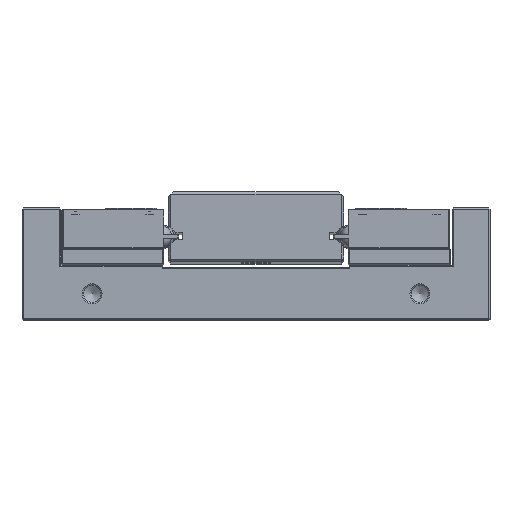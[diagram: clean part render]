
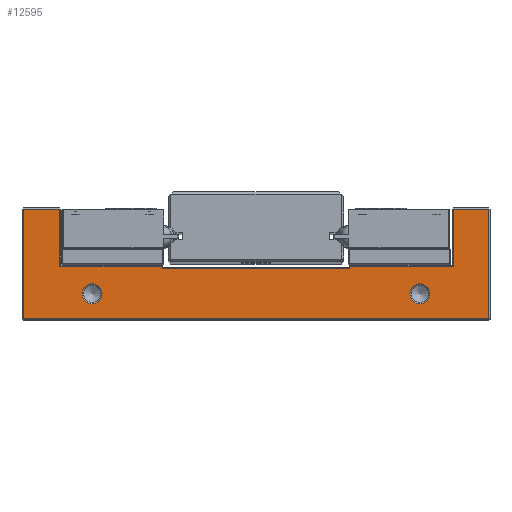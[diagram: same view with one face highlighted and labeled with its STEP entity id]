
A CAD part, top view. The second image highlights one B-rep face of the part: STEP entity #12595.
In plain terms, the highlighted planar face has unit normal (0, 0, 1).
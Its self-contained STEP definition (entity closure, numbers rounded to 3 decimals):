
#432=FACE_BOUND('',#2256,.T.);
#433=FACE_BOUND('',#2257,.T.);
#858=PLANE('',#13699);
#1475=FACE_OUTER_BOUND('',#2255,.T.);
#2255=EDGE_LOOP('',(#10391,#10392,#10393,#10394,#10395,#10396,#10397,#10398,
#10399,#10400,#10401,#10402));
#2256=EDGE_LOOP('',(#10403));
#2257=EDGE_LOOP('',(#10404));
#3259=LINE('',#21116,#4302);
#3297=LINE('',#21235,#4340);
#3298=LINE('',#21238,#4341);
#3300=LINE('',#21242,#4343);
#3301=LINE('',#21244,#4344);
#3302=LINE('',#21246,#4345);
#3303=LINE('',#21248,#4346);
#3304=LINE('',#21250,#4347);
#3305=LINE('',#21252,#4348);
#3306=LINE('',#21254,#4349);
#3307=LINE('',#21255,#4350);
#3308=LINE('',#21256,#4351);
#4302=VECTOR('',#16321,10.);
#4340=VECTOR('',#16451,10.);
#4341=VECTOR('',#16454,10.);
#4343=VECTOR('',#16458,10.);
#4344=VECTOR('',#16459,10.);
#4345=VECTOR('',#16460,10.);
#4346=VECTOR('',#16461,10.);
#4347=VECTOR('',#16462,10.);
#4348=VECTOR('',#16463,10.);
#4349=VECTOR('',#16464,10.);
#4350=VECTOR('',#16465,10.);
#4351=VECTOR('',#16466,10.);
#4894=CIRCLE('',#13700,3.824);
#4895=CIRCLE('',#13701,3.824);
#5837=VERTEX_POINT('',#21113);
#5838=VERTEX_POINT('',#21115);
#5872=VERTEX_POINT('',#21231);
#5873=VERTEX_POINT('',#21233);
#5874=VERTEX_POINT('',#21237);
#5875=VERTEX_POINT('',#21241);
#5876=VERTEX_POINT('',#21243);
#5877=VERTEX_POINT('',#21245);
#5878=VERTEX_POINT('',#21247);
#5879=VERTEX_POINT('',#21249);
#5880=VERTEX_POINT('',#21251);
#5881=VERTEX_POINT('',#21253);
#5882=VERTEX_POINT('',#21257);
#5883=VERTEX_POINT('',#21259);
#7383=EDGE_CURVE('',#5838,#5837,#3259,.T.);
#7443=EDGE_CURVE('',#5873,#5872,#3297,.T.);
#7444=EDGE_CURVE('',#5874,#5872,#3298,.T.);
#7446=EDGE_CURVE('',#5875,#5873,#3300,.T.);
#7447=EDGE_CURVE('',#5876,#5875,#3301,.T.);
#7448=EDGE_CURVE('',#5877,#5876,#3302,.T.);
#7449=EDGE_CURVE('',#5878,#5877,#3303,.T.);
#7450=EDGE_CURVE('',#5879,#5878,#3304,.T.);
#7451=EDGE_CURVE('',#5880,#5879,#3305,.T.);
#7452=EDGE_CURVE('',#5881,#5880,#3306,.T.);
#7453=EDGE_CURVE('',#5838,#5881,#3307,.T.);
#7454=EDGE_CURVE('',#5874,#5837,#3308,.T.);
#7455=EDGE_CURVE('',#5882,#5882,#4894,.T.);
#7456=EDGE_CURVE('',#5883,#5883,#4895,.T.);
#10391=ORIENTED_EDGE('',*,*,#7443,.F.);
#10392=ORIENTED_EDGE('',*,*,#7446,.F.);
#10393=ORIENTED_EDGE('',*,*,#7447,.F.);
#10394=ORIENTED_EDGE('',*,*,#7448,.F.);
#10395=ORIENTED_EDGE('',*,*,#7449,.F.);
#10396=ORIENTED_EDGE('',*,*,#7450,.F.);
#10397=ORIENTED_EDGE('',*,*,#7451,.F.);
#10398=ORIENTED_EDGE('',*,*,#7452,.F.);
#10399=ORIENTED_EDGE('',*,*,#7453,.F.);
#10400=ORIENTED_EDGE('',*,*,#7383,.T.);
#10401=ORIENTED_EDGE('',*,*,#7454,.F.);
#10402=ORIENTED_EDGE('',*,*,#7444,.T.);
#10403=ORIENTED_EDGE('',*,*,#7455,.F.);
#10404=ORIENTED_EDGE('',*,*,#7456,.F.);
#12595=ADVANCED_FACE('',(#1475,#432,#433),#858,.T.);
#13699=AXIS2_PLACEMENT_3D('',#21240,#16456,#16457);
#13700=AXIS2_PLACEMENT_3D('',#21258,#16467,#16468);
#13701=AXIS2_PLACEMENT_3D('',#21260,#16469,#16470);
#16321=DIRECTION('',(0.,-1.,0.));
#16451=DIRECTION('',(1.,0.,0.));
#16454=DIRECTION('',(0.,1.,0.));
#16456=DIRECTION('center_axis',(0.,0.,
1.));
#16457=DIRECTION('ref_axis',(1.,0.,0.));
#16458=DIRECTION('',(0.,-1.,0.));
#16459=DIRECTION('',(1.,0.,0.));
#16460=DIRECTION('',(0.,1.,0.));
#16461=DIRECTION('',(-1.,0.,0.));
#16462=DIRECTION('',(0.,-1.,0.));
#16463=DIRECTION('',(1.,0.,0.));
#16464=DIRECTION('',(0.,1.,0.));
#16465=DIRECTION('',(1.,0.,0.));
#16466=DIRECTION('',(1.,0.,0.));
#16467=DIRECTION('center_axis',(0.,0.,
1.));
#16468=DIRECTION('ref_axis',(-1.,0.,0.));
#16469=DIRECTION('center_axis',(0.,0.,
1.));
#16470=DIRECTION('ref_axis',(-1.,0.,0.));
#21113=CARTESIAN_POINT('',(27.11,-21.38,59.754));
#21115=CARTESIAN_POINT('',(27.11,-20.58,59.754));
#21116=CARTESIAN_POINT('',(27.11,-20.08,59.754));
#21231=CARTESIAN_POINT('',(-44.89,-20.58,59.754));
#21233=CARTESIAN_POINT('',(-84.39,-20.58,59.754));
#21235=CARTESIAN_POINT('',(-26.89,-20.58,59.754));
#21237=CARTESIAN_POINT('',(-44.89,-21.38,59.754));
#21238=CARTESIAN_POINT('',(-44.89,-20.88,59.754));
#21240=CARTESIAN_POINT('Origin',(-8.89,-19.58,59.754));
#21241=CARTESIAN_POINT('',(-84.39,1.42,59.754));
#21242=CARTESIAN_POINT('',(-84.39,-19.83,59.754));
#21243=CARTESIAN_POINT('',(-98.39,1.42,59.754));
#21244=CARTESIAN_POINT('',(-46.39,1.42,59.754));
#21245=CARTESIAN_POINT('',(-98.39,-40.58,59.754));
#21246=CARTESIAN_POINT('',(-98.39,-8.83,59.754));
#21247=CARTESIAN_POINT('',(80.61,-40.58,59.754));
#21248=CARTESIAN_POINT('',(-53.89,-40.58,59.754));
#21249=CARTESIAN_POINT('',(80.61,1.42,59.754));
#21250=CARTESIAN_POINT('',(80.61,-30.33,59.754));
#21251=CARTESIAN_POINT('',(67.11,1.42,59.754));
#21252=CARTESIAN_POINT('',(36.11,1.42,59.754));
#21253=CARTESIAN_POINT('',(67.11,-20.58,59.754));
#21254=CARTESIAN_POINT('',(67.11,-8.83,59.754));
#21255=CARTESIAN_POINT('',(28.86,-20.58,59.754));
#21256=CARTESIAN_POINT('',(9.11,-21.38,59.754));
#21257=CARTESIAN_POINT('',(57.933,-31.08,59.754));
#21258=CARTESIAN_POINT('Origin',(54.11,-31.08,59.754));
#21259=CARTESIAN_POINT('',(-68.067,-31.08,59.754));
#21260=CARTESIAN_POINT('Origin',(-71.89,-31.08,59.754));
